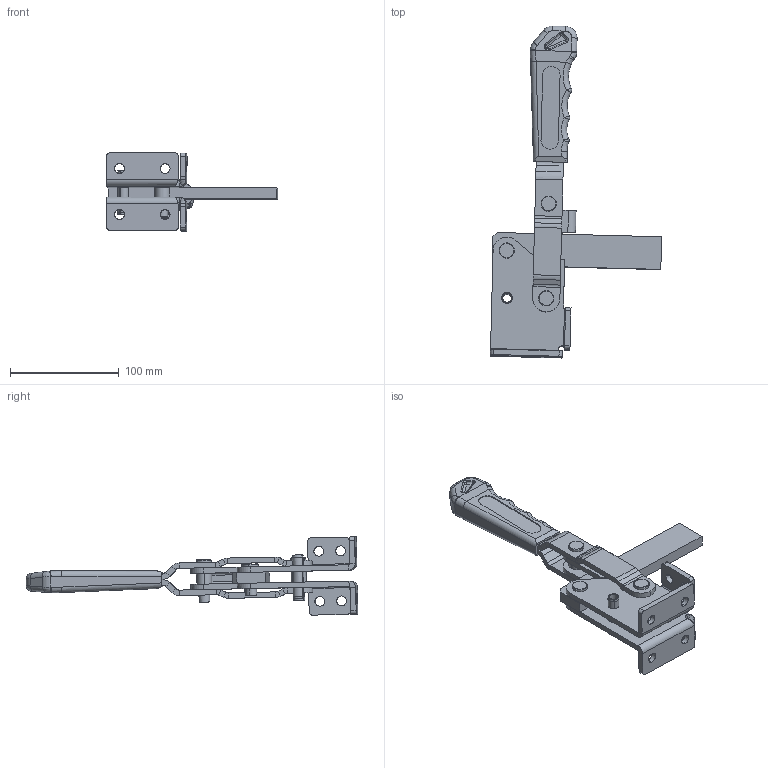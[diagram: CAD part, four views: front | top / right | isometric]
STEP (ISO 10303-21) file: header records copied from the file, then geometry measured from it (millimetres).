
FILE_DESCRIPTION (( 'STEP AP214' ), '1' );
FILE_NAME ('204_YL.STEP', '2024-09-09T16:33:46', ( '' ), ( '' ), 'SwSTEP 2.0', 'SolidWorks 2023', '' );
FILE_SCHEMA (( 'AUTOMOTIVE_DESIGN' ));
Length unit declared in the file: millimetre
Products named in the file (12): FZK_204_YL_02_00; FZK_204_B_05_00; FZK_204_B_02_00; 204_YL; FZK_204_YL_01_00; FZK_204_B_03_00; FZK_204_B_04_00; FZK_204_B_05A_00; FZK_204_B_06_00; spring pin slotted_hd_din_Spring Pin ISO 8752 - 10 x 50 - St_1; FZK_204_B_07_00; TTMK_05_00
Assembly tree (15 placements, depth 3):
  204_YL
    FZK_204_B_02_00  x2
    FZK_204_B_03_00
    FZK_204_B_04_00
    FZK_204_B_05_00
      FZK_204_B_05A_00  x2
    FZK_204_B_06_00  x2
    FZK_204_B_07_00  x2
    TTMK_05_00
    spring pin slotted_hd_din_Spring Pin ISO 8752 - 10 x 50 - St_1
    FZK_204_YL_01_00
    FZK_204_YL_02_00
Bounding box: 157.36 x 304.95 x 71.85 mm (x, y, z)
Volume: 270096.5 mm3; surface area: 124704.4 mm2
Topology: 14 solids, 14 shells, 508 faces, 1181 edges, 698 vertices
Faces by surface type: cylinder 224, plane 196, bspline 61, cone 27
Entity records: 14410 total; most frequent: CARTESIAN_POINT 4844, DIRECTION 1936, ORIENTED_EDGE 1910, EDGE_CURVE 955, AXIS2_PLACEMENT_3D 737, VERTEX_POINT 580, EDGE_LOOP 463, VECTOR 462
